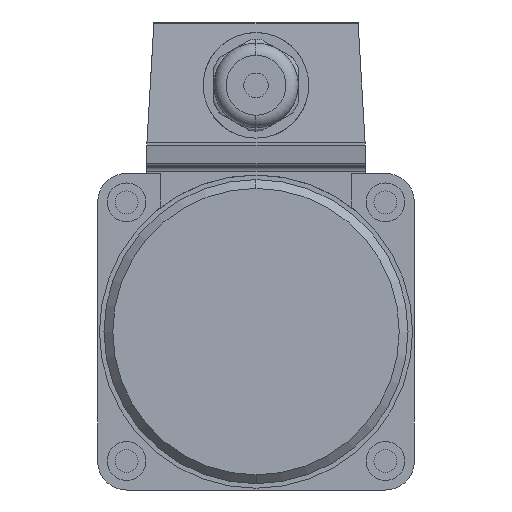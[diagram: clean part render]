
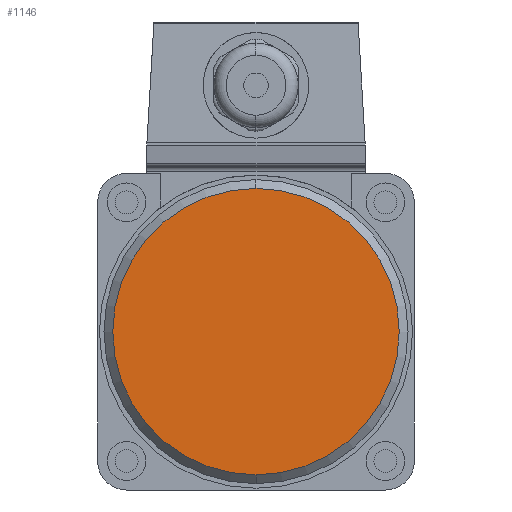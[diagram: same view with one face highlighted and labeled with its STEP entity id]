
A CAD part, left-side view. The second image highlights one B-rep face of the part: STEP entity #1146.
In plain terms, the highlighted planar face has unit normal (-1, 0, 0).
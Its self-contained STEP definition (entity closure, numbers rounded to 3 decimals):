
#1126=CARTESIAN_POINT('POINT663232',(-165.,0.,
   22.7));
#1127=VERTEX_POINT('VERTEX663232',#1126);
#1128=CARTESIAN_POINT('POINT663233',(-165.,0.,
   -58.7));
#1129=VERTEX_POINT('VERTEX663233',#1128);
#1130=CARTESIAN_POINT('POS1093885',(-165.,0.,-18.));
#1131=DIRECTION('DIR1614079',(1.,0.,0.));
#1132=DIRECTION('DIR1614080',(0.,0.,1.));
#1133=AXIS2_PLACEMENT_3D('AXIS520195',#1130,#1131,#1132);
#1134=CIRCLE('ELLIPSE225983',#1133,40.7);
#1135=EDGE_CURVE('EDGE1022520',#1127,#1129,#1134,.T.);
#1136=ORIENTED_EDGE('COEDGE2045585',*,*,#1135,.F.);
#1137=EDGE_CURVE('EDGE1022521',#1129,#1127,#1134,.T.);
#1138=ORIENTED_EDGE('COEDGE2045586',*,*,#1137,.F.);
#1139=EDGE_LOOP('NONE',(#1136,#1138));
#1140=FACE_BOUND('LOOP1',#1139,.T.);
#1141=CARTESIAN_POINT('POS1093886',(-165.,0.,
   2.35));
#1142=DIRECTION('DIR1614081',(-1.,0.,0.));
#1143=DIRECTION('DIR1614082',(0.,1.,0.));
#1144=AXIS2_PLACEMENT_3D('AXIS520196',#1141,#1142,#1143);
#1145=PLANE('PLANE193626',#1144);
#1146=ADVANCED_FACE('FACE407612',(#1140),#1145,.T.);
